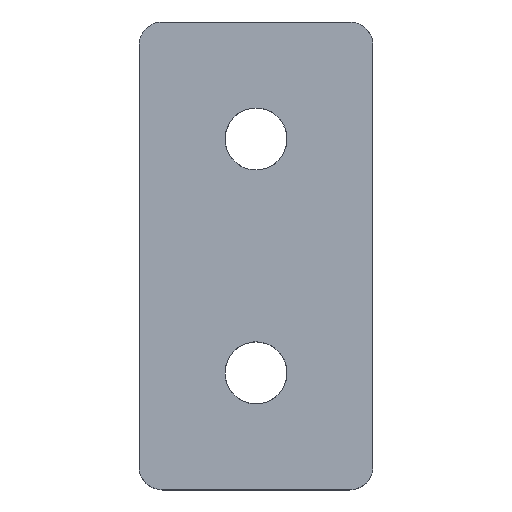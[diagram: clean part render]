
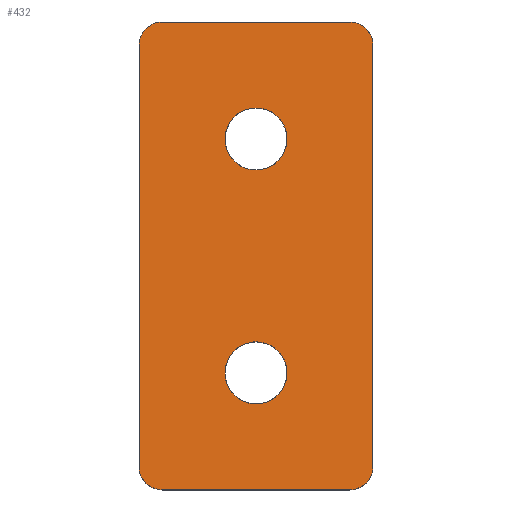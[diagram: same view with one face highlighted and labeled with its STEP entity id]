
A CAD part, top view. The second image highlights one B-rep face of the part: STEP entity #432.
In plain terms, the highlighted planar face has unit normal (0.128, 0, 0.992).
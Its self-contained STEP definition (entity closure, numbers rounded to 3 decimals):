
#6=DIRECTION('',(0.992,0.,-0.128));
#7=VECTOR('',#6,16.133);
#8=CARTESIAN_POINT('',(-8.,-20.,7.326));
#9=LINE('',#8,#7);
#62=CARTESIAN_POINT('',(-8.,20.,7.326));
#63=CARTESIAN_POINT('',(-8.332,20.,7.369));
#64=CARTESIAN_POINT('',(-8.853,19.856,7.436));
#65=CARTESIAN_POINT('',(-9.442,19.446,7.513));
#66=CARTESIAN_POINT('',(-9.854,18.857,7.566));
#67=CARTESIAN_POINT('',(-10.,18.335,7.585));
#68=CARTESIAN_POINT('',(-10.,18.,7.585));
#70=CARTESIAN_POINT('',(10.,18.,5.));
#71=CARTESIAN_POINT('',(10.,18.335,5.));
#72=CARTESIAN_POINT('',(9.854,18.857,5.019));
#73=CARTESIAN_POINT('',(9.442,19.446,5.072));
#74=CARTESIAN_POINT('',(8.853,19.856,5.148));
#75=CARTESIAN_POINT('',(8.332,20.,5.216));
#76=CARTESIAN_POINT('',(8.,20.,5.258));
#78=CARTESIAN_POINT('',(8.,-20.,5.258));
#79=CARTESIAN_POINT('',(8.332,-20.,5.216));
#80=CARTESIAN_POINT('',(8.853,-19.856,5.148));
#81=CARTESIAN_POINT('',(9.442,-19.446,5.072));
#82=CARTESIAN_POINT('',(9.854,-18.857,5.019));
#83=CARTESIAN_POINT('',(10.,-18.335,5.));
#84=CARTESIAN_POINT('',(10.,-18.,5.));
#86=CARTESIAN_POINT('',(-10.,-18.,7.585));
#87=CARTESIAN_POINT('',(-10.,-18.335,7.585));
#88=CARTESIAN_POINT('',(-9.854,-18.857,7.566));
#89=CARTESIAN_POINT('',(-9.442,-19.446,7.513));
#90=CARTESIAN_POINT('',(-8.853,-19.856,7.436));
#91=CARTESIAN_POINT('',(-8.332,-20.,7.369));
#92=CARTESIAN_POINT('',(-8.,-20.,7.326));
#94=DIRECTION('',(0.,1.,0.));
#95=VECTOR('',#94,36.);
#96=CARTESIAN_POINT('',(-10.,-18.,7.585));
#97=LINE('',#96,#95);
#98=CARTESIAN_POINT('',(2.65,10.,5.95));
#99=CARTESIAN_POINT('',(2.65,9.688,5.95));
#100=CARTESIAN_POINT('',(2.537,9.013,5.964));
#101=CARTESIAN_POINT('',(1.929,8.07,6.043));
#102=CARTESIAN_POINT('',(1.145,7.565,6.144));
#103=CARTESIAN_POINT('',(0.479,7.378,6.23));
#104=CARTESIAN_POINT('',(0.,7.336,6.292));
#105=CARTESIAN_POINT('',(-0.479,7.378,6.354));
#106=CARTESIAN_POINT('',(-1.145,7.565,6.44));
#107=CARTESIAN_POINT('',(-1.929,8.07,6.542));
#108=CARTESIAN_POINT('',(-2.537,9.013,6.62));
#109=CARTESIAN_POINT('',(-2.65,9.688,6.635));
#110=CARTESIAN_POINT('',(-2.65,10.,6.635));
#112=CARTESIAN_POINT('',(-2.65,10.,6.635));
#113=CARTESIAN_POINT('',(-2.65,10.312,6.635));
#114=CARTESIAN_POINT('',(-2.537,10.987,6.62));
#115=CARTESIAN_POINT('',(-1.929,11.93,6.542));
#116=CARTESIAN_POINT('',(-1.145,12.435,6.44));
#117=CARTESIAN_POINT('',(-0.479,12.622,6.354));
#118=CARTESIAN_POINT('',(0.,12.664,6.292));
#119=CARTESIAN_POINT('',(0.479,12.622,6.23));
#120=CARTESIAN_POINT('',(1.145,12.435,6.144));
#121=CARTESIAN_POINT('',(1.929,11.93,6.043));
#122=CARTESIAN_POINT('',(2.537,10.987,5.964));
#123=CARTESIAN_POINT('',(2.65,10.312,5.95));
#124=CARTESIAN_POINT('',(2.65,10.,5.95));
#126=CARTESIAN_POINT('',(2.65,-10.,5.95));
#127=CARTESIAN_POINT('',(2.65,-10.312,5.95));
#128=CARTESIAN_POINT('',(2.537,-10.987,5.964));
#129=CARTESIAN_POINT('',(1.929,-11.93,6.043));
#130=CARTESIAN_POINT('',(1.145,-12.435,6.144));
#131=CARTESIAN_POINT('',(0.479,-12.622,6.23));
#132=CARTESIAN_POINT('',(0.,-12.664,6.292));
#133=CARTESIAN_POINT('',(-0.479,-12.622,
6.354));
#134=CARTESIAN_POINT('',(-1.145,-12.435,6.44));
#135=CARTESIAN_POINT('',(-1.929,-11.93,6.542));
#136=CARTESIAN_POINT('',(-2.537,-10.987,6.62));
#137=CARTESIAN_POINT('',(-2.65,-10.312,6.635));
#138=CARTESIAN_POINT('',(-2.65,-10.,6.635));
#140=CARTESIAN_POINT('',(-2.65,-10.,6.635));
#141=CARTESIAN_POINT('',(-2.65,-9.688,6.635));
#142=CARTESIAN_POINT('',(-2.537,-9.013,6.62));
#143=CARTESIAN_POINT('',(-1.929,-8.07,6.542));
#144=CARTESIAN_POINT('',(-1.145,-7.565,6.44));
#145=CARTESIAN_POINT('',(-0.479,-7.378,
6.354));
#146=CARTESIAN_POINT('',(0.,-7.336,6.292));
#147=CARTESIAN_POINT('',(0.479,-7.378,6.23));
#148=CARTESIAN_POINT('',(1.145,-7.565,6.144));
#149=CARTESIAN_POINT('',(1.929,-8.07,6.043));
#150=CARTESIAN_POINT('',(2.537,-9.013,5.964));
#151=CARTESIAN_POINT('',(2.65,-9.688,5.95));
#152=CARTESIAN_POINT('',(2.65,-10.,5.95));
#166=DIRECTION('',(0.992,0.,-0.128));
#167=VECTOR('',#166,16.133);
#168=CARTESIAN_POINT('',(-8.,20.,7.326));
#169=LINE('',#168,#167);
#178=DIRECTION('',(0.,1.,0.));
#179=VECTOR('',#178,36.);
#180=CARTESIAN_POINT('',(10.,-18.,5.));
#181=LINE('',#180,#179);
#266=VERTEX_POINT('',#62);
#267=VERTEX_POINT('',#68);
#276=CARTESIAN_POINT('',(10.,18.,5.));
#277=VERTEX_POINT('',#276);
#278=VERTEX_POINT('',#76);
#283=CARTESIAN_POINT('',(-10.,-18.,7.585));
#284=VERTEX_POINT('',#283);
#285=VERTEX_POINT('',#92);
#286=VERTEX_POINT('',#78);
#287=VERTEX_POINT('',#84);
#312=VERTEX_POINT('',#98);
#313=VERTEX_POINT('',#110);
#318=VERTEX_POINT('',#126);
#319=VERTEX_POINT('',#138);
#400=CARTESIAN_POINT('',(-10.,-20.,7.585));
#401=DIRECTION('',(0.128,0.,0.992));
#402=DIRECTION('',(0.992,0.,-0.128));
#403=AXIS2_PLACEMENT_3D('',#400,#401,#402);
#404=PLANE('',#403);
#405=ORIENTED_EDGE('',*,*,#390,.F.);
#407=ORIENTED_EDGE('',*,*,#406,.T.);
#409=ORIENTED_EDGE('',*,*,#408,.F.);
#411=ORIENTED_EDGE('',*,*,#410,.F.);
#413=ORIENTED_EDGE('',*,*,#412,.F.);
#414=ORIENTED_EDGE('',*,*,#327,.F.);
#415=ORIENTED_EDGE('',*,*,#345,.F.);
#417=ORIENTED_EDGE('',*,*,#416,.T.);
#418=EDGE_LOOP('',(#405,#407,#409,#411,#413,#414,#415,#417));
#419=FACE_OUTER_BOUND('',#418,.F.);
#421=ORIENTED_EDGE('',*,*,#420,.F.);
#423=ORIENTED_EDGE('',*,*,#422,.F.);
#424=EDGE_LOOP('',(#421,#423));
#425=FACE_BOUND('',#424,.F.);
#427=ORIENTED_EDGE('',*,*,#426,.F.);
#429=ORIENTED_EDGE('',*,*,#428,.F.);
#430=EDGE_LOOP('',(#427,#429));
#431=FACE_BOUND('',#430,.F.);
#432=ADVANCED_FACE('',(#419,#425,#431),#404,.T.);
#69=B_SPLINE_CURVE_WITH_KNOTS('',3,(#62,#63,#64,#65,#66,#67,#68),.UNSPECIFIED.,
.F.,.F.,(4,1,1,1,4),(0.,0.25,0.5,0.75,1.),.UNSPECIFIED.);
#77=B_SPLINE_CURVE_WITH_KNOTS('',3,(#70,#71,#72,#73,#74,#75,#76),.UNSPECIFIED.,
.F.,.F.,(4,1,1,1,4),(0.,0.25,0.5,0.75,1.),.UNSPECIFIED.);
#85=B_SPLINE_CURVE_WITH_KNOTS('',3,(#78,#79,#80,#81,#82,#83,#84),.UNSPECIFIED.,
.F.,.F.,(4,1,1,1,4),(0.,0.25,0.5,0.75,1.),.UNSPECIFIED.);
#93=B_SPLINE_CURVE_WITH_KNOTS('',3,(#86,#87,#88,#89,#90,#91,#92),.UNSPECIFIED.,
.F.,.F.,(4,1,1,1,4),(0.,0.25,0.5,0.75,1.),.UNSPECIFIED.);
#111=B_SPLINE_CURVE_WITH_KNOTS('',3,(#98,#99,#100,#101,#102,#103,#104,#105,#106,
#107,#108,#109,#110),.UNSPECIFIED.,.F.,.F.,(4,1,1,1,1,1,1,1,1,1,4),(0.,
0.125,0.25,0.375,0.438,0.5,0.563,0.625,0.75,0.875,1.),
.UNSPECIFIED.);
#125=B_SPLINE_CURVE_WITH_KNOTS('',3,(#112,#113,#114,#115,#116,#117,#118,#119,
#120,#121,#122,#123,#124),.UNSPECIFIED.,.F.,.F.,(4,1,1,1,1,1,1,1,1,1,4),(0.,
0.125,0.25,0.375,0.438,0.5,0.563,0.625,0.75,0.875,1.),
.UNSPECIFIED.);
#139=B_SPLINE_CURVE_WITH_KNOTS('',3,(#126,#127,#128,#129,#130,#131,#132,#133,
#134,#135,#136,#137,#138),.UNSPECIFIED.,.F.,.F.,(4,1,1,1,1,1,1,1,1,1,4),(0.,
0.125,0.25,0.375,0.438,0.5,0.563,0.625,0.75,0.875,1.),
.UNSPECIFIED.);
#153=B_SPLINE_CURVE_WITH_KNOTS('',3,(#140,#141,#142,#143,#144,#145,#146,#147,
#148,#149,#150,#151,#152),.UNSPECIFIED.,.F.,.F.,(4,1,1,1,1,1,1,1,1,1,4),(0.,
0.125,0.25,0.375,0.438,0.5,0.563,0.625,0.75,0.875,1.),
.UNSPECIFIED.);
#327=EDGE_CURVE('',#285,#286,#9,.T.);
#345=EDGE_CURVE('',#284,#285,#93,.T.);
#390=EDGE_CURVE('',#266,#267,#69,.T.);
#406=EDGE_CURVE('',#266,#278,#169,.T.);
#408=EDGE_CURVE('',#277,#278,#77,.T.);
#410=EDGE_CURVE('',#287,#277,#181,.T.);
#412=EDGE_CURVE('',#286,#287,#85,.T.);
#416=EDGE_CURVE('',#284,#267,#97,.T.);
#420=EDGE_CURVE('',#312,#313,#111,.T.);
#422=EDGE_CURVE('',#313,#312,#125,.T.);
#426=EDGE_CURVE('',#318,#319,#139,.T.);
#428=EDGE_CURVE('',#319,#318,#153,.T.);
